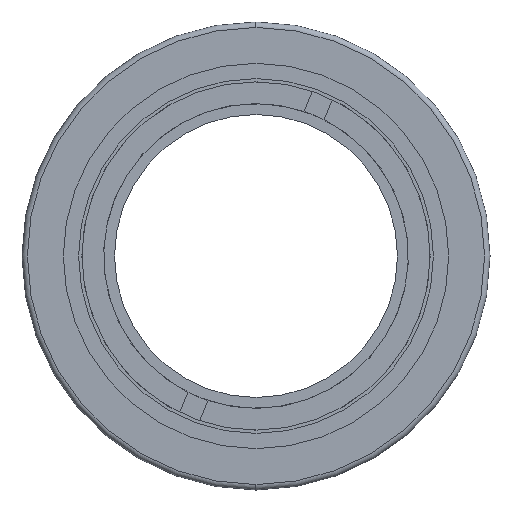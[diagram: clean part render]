
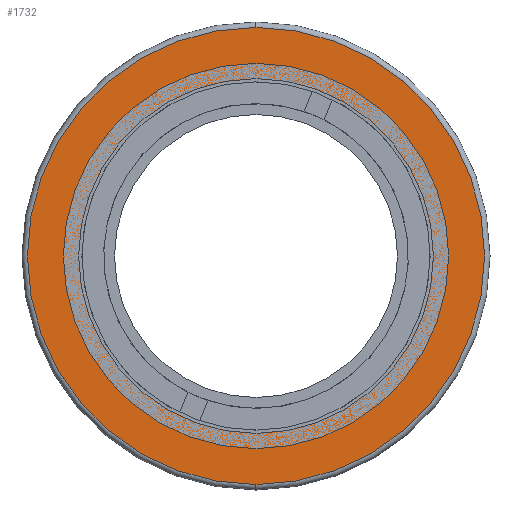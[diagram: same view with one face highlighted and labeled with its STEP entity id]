
A CAD part, left-side view. The second image highlights one B-rep face of the part: STEP entity #1732.
In plain terms, the highlighted planar face has unit normal (-1, 0, 0).
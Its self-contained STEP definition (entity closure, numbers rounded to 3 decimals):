
#62 = DIRECTION ( 'NONE',  ( 0., 0., -1. ) ) ;
#102 = CIRCLE ( 'NONE', #1351, 21. ) ;
#165 = CIRCLE ( 'NONE', #610, 16.3 ) ;
#171 = CARTESIAN_POINT ( 'NONE',  ( -11.304, 2.226, 0. ) ) ;
#198 = ORIENTED_EDGE ( 'NONE', *, *, #749, .T. ) ;
#256 = AXIS2_PLACEMENT_3D ( 'NONE', #1726, #1874, #1043 ) ;
#260 = CARTESIAN_POINT ( 'NONE',  ( -11.304, 2.226, 21. ) ) ;
#302 = DIRECTION ( 'NONE',  ( 1., 0., 0. ) ) ;
#348 = DIRECTION ( 'NONE',  ( 1., 0., 0. ) ) ;
#433 = AXIS2_PLACEMENT_3D ( 'NONE', #171, #943, #1222 ) ;
#469 = EDGE_CURVE ( 'NONE', #790, #927, #519, .T. ) ;
#472 = FACE_OUTER_BOUND ( 'NONE', #880, .T. ) ;
#510 = ORIENTED_EDGE ( 'NONE', *, *, #1299, .T. ) ;
#519 = CIRCLE ( 'NONE', #433, 21. ) ;
#521 = DIRECTION ( 'NONE',  ( 0., 0., -1. ) ) ;
#535 = DIRECTION ( 'NONE',  ( -1., 0., 0. ) ) ;
#549 = ORIENTED_EDGE ( 'NONE', *, *, #469, .T. ) ;
#588 = CARTESIAN_POINT ( 'NONE',  ( -11.304, 2.226, 0. ) ) ;
#610 = AXIS2_PLACEMENT_3D ( 'NONE', #588, #302, #1615 ) ;
#688 = CARTESIAN_POINT ( 'NONE',  ( -11.304, 2.226, 0. ) ) ;
#748 = CARTESIAN_POINT ( 'NONE',  ( -11.304, 2.226, 16.3 ) ) ;
#749 = EDGE_CURVE ( 'NONE', #927, #790, #102, .T. ) ;
#790 = VERTEX_POINT ( 'NONE', #895 ) ;
#880 = EDGE_LOOP ( 'NONE', ( #549, #198 ) ) ;
#895 = CARTESIAN_POINT ( 'NONE',  ( -11.304, 2.226, -21. ) ) ;
#927 = VERTEX_POINT ( 'NONE', #260 ) ;
#943 = DIRECTION ( 'NONE',  ( -1., 0., 0. ) ) ;
#979 = CIRCLE ( 'NONE', #256, 16.3 ) ;
#1037 = ORIENTED_EDGE ( 'NONE', *, *, #1462, .T. ) ;
#1043 = DIRECTION ( 'NONE',  ( 0., 0., -1. ) ) ;
#1124 = EDGE_LOOP ( 'NONE', ( #510, #1037 ) ) ;
#1125 = VERTEX_POINT ( 'NONE', #1374 ) ;
#1222 = DIRECTION ( 'NONE',  ( 0., 0., -1. ) ) ;
#1299 = EDGE_CURVE ( 'NONE', #1318, #1125, #979, .T. ) ;
#1318 = VERTEX_POINT ( 'NONE', #748 ) ;
#1351 = AXIS2_PLACEMENT_3D ( 'NONE', #688, #535, #521 ) ;
#1374 = CARTESIAN_POINT ( 'NONE',  ( -11.304, 2.226, -16.3 ) ) ;
#1462 = EDGE_CURVE ( 'NONE', #1125, #1318, #165, .T. ) ;
#1516 = PLANE ( 'NONE',  #1696 ) ;
#1580 = FACE_BOUND ( 'NONE', #1124, .T. ) ;
#1615 = DIRECTION ( 'NONE',  ( 0., 0., -1. ) ) ;
#1696 = AXIS2_PLACEMENT_3D ( 'NONE', #1829, #348, #62 ) ;
#1726 = CARTESIAN_POINT ( 'NONE',  ( -11.304, 2.226, 0. ) ) ;
#1732 = ADVANCED_FACE ( 'NONE', ( #472, #1580 ), #1516, .F. ) ;
#1829 = CARTESIAN_POINT ( 'NONE',  ( -11.304, 2.226, 0. ) ) ;
#1874 = DIRECTION ( 'NONE',  ( 1., 0., 0. ) ) ;
